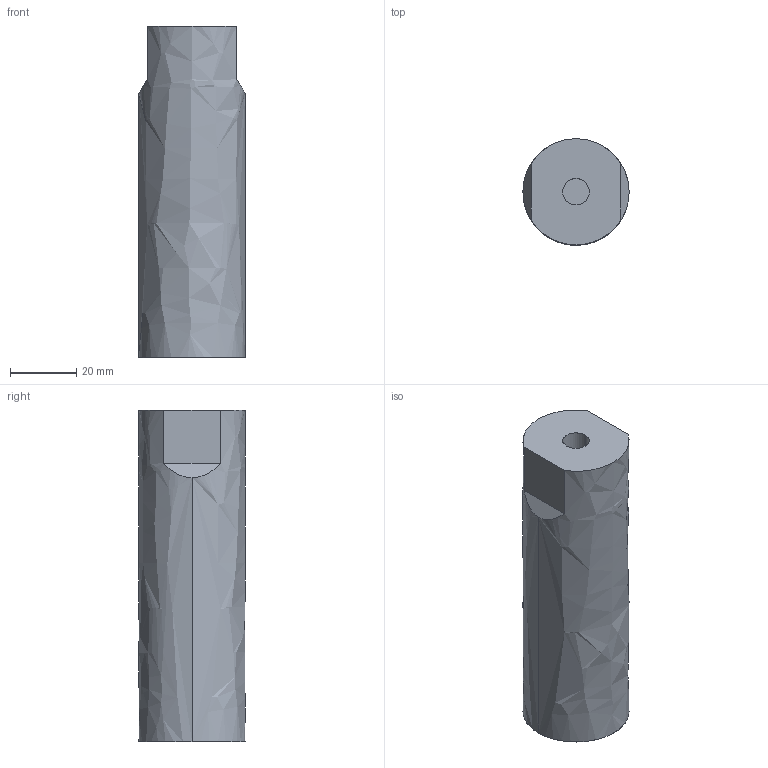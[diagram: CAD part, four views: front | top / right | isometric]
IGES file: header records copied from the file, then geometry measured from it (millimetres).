
Global section: file name: E:\UnigraphicsGraphicData\MISUMI_PRESS-PARTS\IGES\3d_sbvm32-100-r_00164_r00.igs; native system: NX V5.0; preprocessor: UGS NX IGES V5.0; author: MISUMI; date: 20110105.162513; units: millimetre
Bounding box: 32 x 32 x 100 mm (x, y, z)
Surface area: 11992.2 mm2 (no closed solid volume)
Topology: 0 solids, 0 shells, 11 faces, 80 edges, 80 vertices
Faces by surface type: bspline 11
